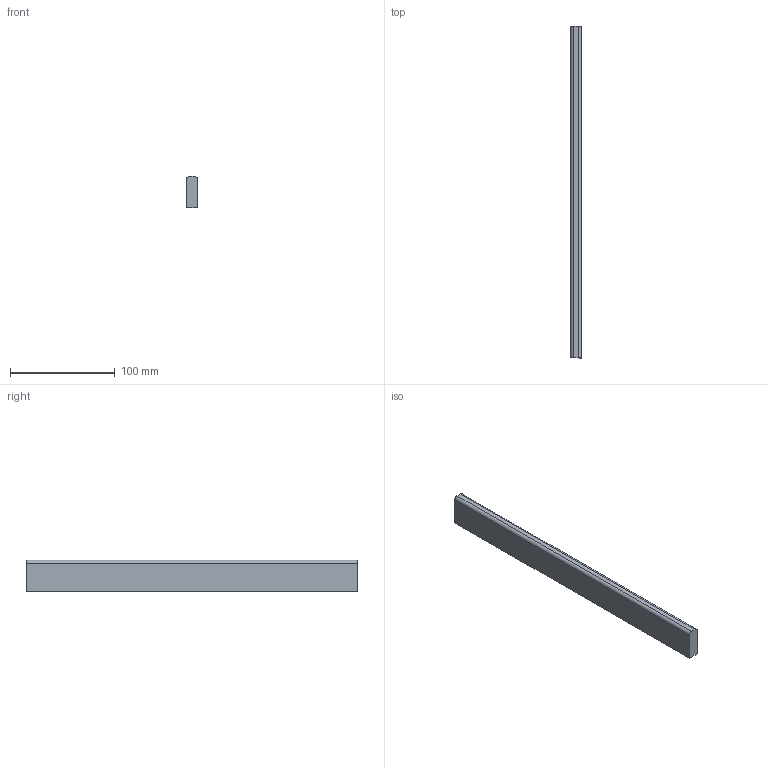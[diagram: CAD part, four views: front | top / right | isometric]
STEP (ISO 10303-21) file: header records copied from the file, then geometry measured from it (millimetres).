
FILE_DESCRIPTION (( 'STEP AP214' ), '1' );
FILE_NAME ('_Seitenreling_SP60701200_RL317,1.step', '2010-09-06T14:51:57', ( 'grass' ), ( '' ), 'SwSTEP 2.0', 'SolidWorks 2010', '' );
FILE_SCHEMA (( 'AUTOMOTIVE_DESIGN' ));
Length unit declared in the file: millimetre
Products named in the file (1): _Seitenreling_SP60701200_RL317,1
Bounding box: 10.5 x 317.1 x 30 mm (x, y, z)
Volume: 98661.6 mm3; surface area: 25490.8 mm2
Topology: 1 solids, 1 shells, 8 faces, 18 edges, 12 vertices
Faces by surface type: plane 6, cylinder 2
Entity records: 260 total; most frequent: DIRECTION 40, CARTESIAN_POINT 39, ORIENTED_EDGE 36, EDGE_CURVE 18, LINE 14, VECTOR 14, AXIS2_PLACEMENT_3D 13, VERTEX_POINT 12
